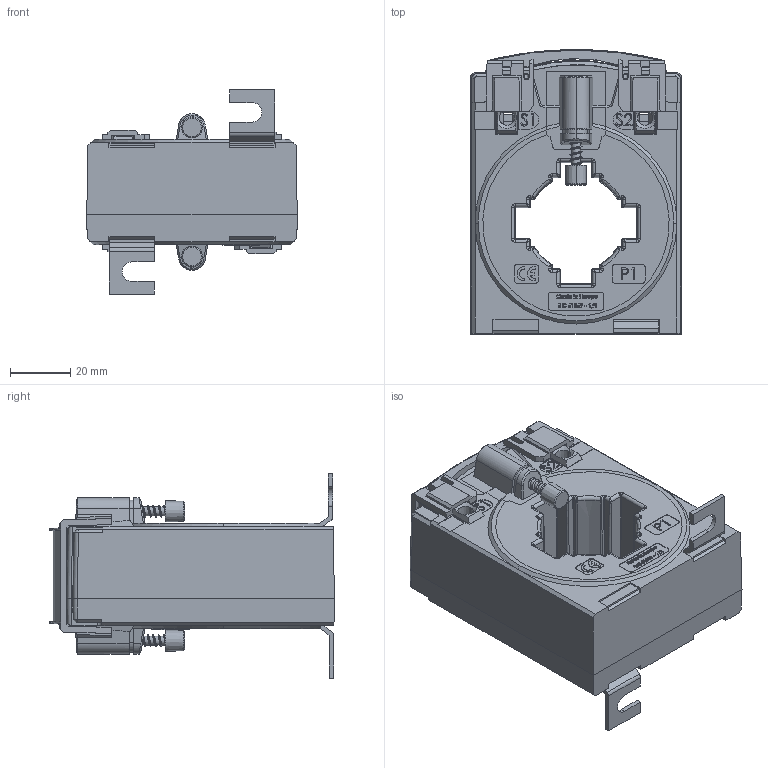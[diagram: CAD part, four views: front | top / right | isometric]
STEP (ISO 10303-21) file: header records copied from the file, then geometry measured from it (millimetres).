
FILE_DESCRIPTION (( 'STEP AP214' ), '1' );
FILE_NAME ('ECTB41.35_kpl_extern_2020-07-07.STEP', '2020-07-07T06:42:51', ( '' ), ( '' ), 'SwSTEP 2.0', 'SolidWorks 2016', '' );
FILE_SCHEMA (( 'AUTOMOTIVE_DESIGN' ));
Length unit declared in the file: millimetre
Products named in the file (9): ECTB41.35_kpl_extern_2020-07-07; Plombierplatte_CTB31-CTB41_50.2.8118_02; Fusswinkel_1,5; Zugfederkontakt_mit_Gehäuse_Lötkontakte_04; CTB-Klemmenkoerper_50.2.8114_01; Isolierschutzkappe; Plastite_Schraube_25_mit-Gewinde; CTB41.35_GO; CTB41.35_GU
Assembly tree (12 placements, depth 3):
  ECTB41.35_kpl_extern_2020-07-07
    CTB41.35_GU
    CTB41.35_GO
    Plastite_Schraube_25_mit-Gewinde  x2
    Isolierschutzkappe  x2
    Zugfederkontakt_mit_Gehäuse_Lötkontakte_04  x2
      CTB-Klemmenkoerper_50.2.8114_01
    Fusswinkel_1,5  x2
    Plombierplatte_CTB31-CTB41_50.2.8118_02
Bounding box: 70 x 94.7 x 68 mm (x, y, z)
Volume: 121182.1 mm3; surface area: 65786.2 mm2
Topology: 10 solids, 16 shells, 3040 faces, 8402 edges, 5474 vertices
Faces by surface type: plane 1713, bspline 620, cylinder 447, cone 189, torus 63, sphere 8
Entity records: 106065 total; most frequent: CARTESIAN_POINT 46135, ORIENTED_EDGE 14058, DIRECTION 9815, EDGE_CURVE 7031, VERTEX_POINT 4603, LINE 4453, VECTOR 4453, EDGE_LOOP 2717
